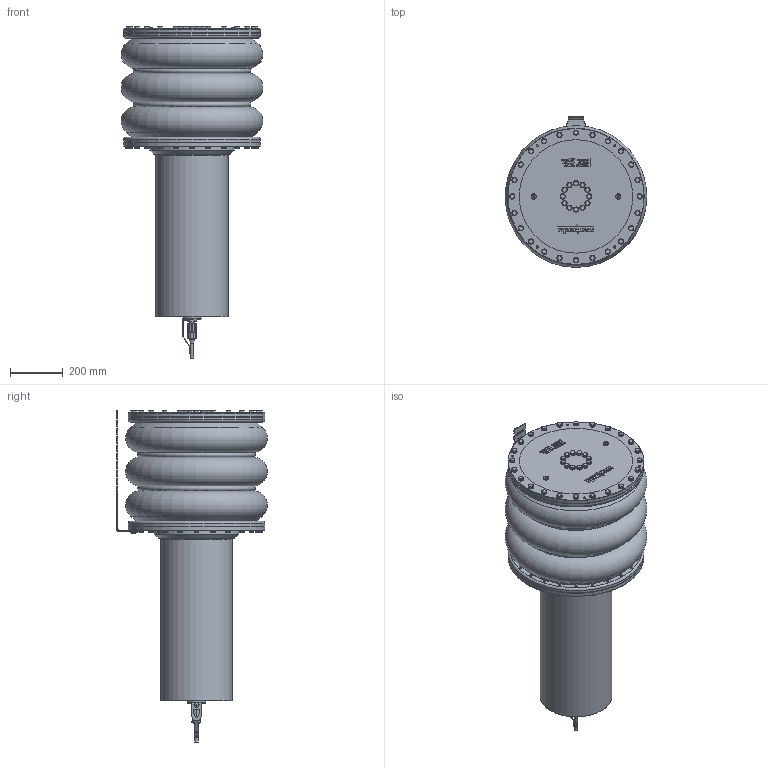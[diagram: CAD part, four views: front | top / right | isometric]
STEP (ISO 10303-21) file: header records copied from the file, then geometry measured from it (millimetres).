
FILE_DESCRIPTION(/* description */ ('Bellows Compensator AISI316 - 50L, RotaLJ, ANA, BH3M'),/* implementation_level */ '2;1');
FILE_NAME(/* name */ 'Bellows Compensator AISI316 - 50L, RotaLJ, ANA, BH3M (SA-0324-00001).stp',/* time_stamp */ '2024-12-16T14:48:32+01:00',/* author */ ('SHU'),/* organization */ ('Seatools'),/* preprocessor_version */ 'ST-DEVELOPER v19.2',/* originating_system */ 'Autodesk Inventor 2023',/* authorisation */ '');
FILE_SCHEMA (('AUTOMOTIVE_DESIGN { 1 0 10303 214 3 1 1 }'));
Length unit declared in the file: millimetre
Products named in the file (1): SA-0324-00001
Bounding box: 536.92 x 570.96 x 1258 mm (x, y, z)
Volume: 128649551.7 mm3; surface area: 2258970.1 mm2
Topology: 1 solids, 2 shells, 3249 faces, 8155 edges, 5259 vertices
Faces by surface type: plane 1509, bspline 786, cone 506, cylinder 416, sphere 17, torus 15
Full cylindrical faces by diameter (mm): 3 x1, 6.7 x6, 8.376 x74, 10 x4, 12 x1, 15.4 x62, 18.631 x2, 20 x63, 21 x2, 23.2 x2, 24.117 x1, 25.4 x1, 25.7 x1, 28 x1, 30 x2, 30.291 x1, 32.7 x1, 33 x1, 35 x1, 36 x1, 38 x1, 45 x1, 70 x1, 71 x1, 273 x1, 320 x1, 325 x1, 445.1 x2, 446 x2, 517 x4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
Entity records: 103578 total; most frequent: CARTESIAN_POINT 28761, ORIENTED_EDGE 16284, DIRECTION 12136, EDGE_CURVE 8142, VERTEX_POINT 5259, LINE 4206, VECTOR 4206, AXIS2_PLACEMENT_3D 3965
